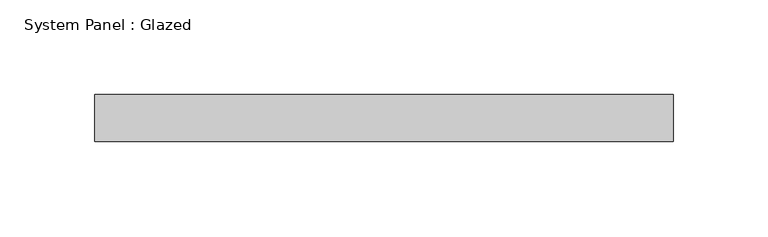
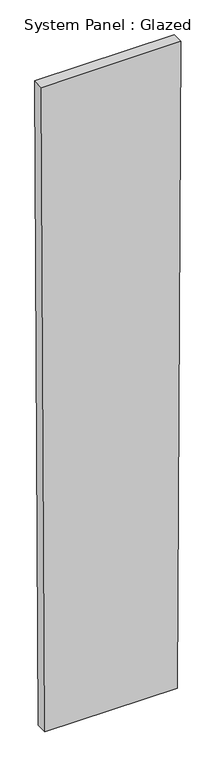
"""IFC4 building model written with IfcOpenShell, lengths in millimetres: plate geometry, System Panel : Glazed."""

from ifc_helpers import new_model, si_unit, frame, origin, place, context, project, spatial, polyline, outline, extrude, source, transform, mapped, element, save


def system_panel_glazed_dd5094d1(model_context):
    return source(origin(), model_context, "Body", "SweptSolid", [
        extrude(outline(polyline([(0.0, -145.2320057), (0.0, 145.2319387), (1499.9803382, 152.9121835), (1499.9803382, -152.9121835), (0.0, -145.2320057)])), frame((0.0, -49.5, 0.0), z_axis=(0.0, 1.0, 0.0), x_axis=(0.0, 0.0, 1.0)), (0.0, 0.0, 1.0), 25.0),
    ])


if __name__ == "__main__":
    model = new_model("IFC4")
    model_context = context("Model", 3, world=origin())
    ifc_project = project(units=[si_unit("LENGTHUNIT", "METRE", prefix="MILLI")], contexts=[model_context])
    site = spatial("IfcSite", under=ifc_project)
    building = spatial("IfcBuilding", under=site)
    placement = place(None, origin())
    system_panel_glazed_shape = system_panel_glazed_dd5094d1(model_context)
    element("IfcPlate", 1, ObjectType="System Panel : Glazed", at=placement, inside=building, context=model_context, shape_type="MappedRepresentation", body=[
        mapped(system_panel_glazed_shape, transform((0.0, 0.0, 0.0), x_axis=(1.0, 0.0, 0.0), y_axis=(0.0, 1.0, 0.0), z_axis=(0.0, 0.0, 1.0))),
    ])
    save(model, "model.ifc")
